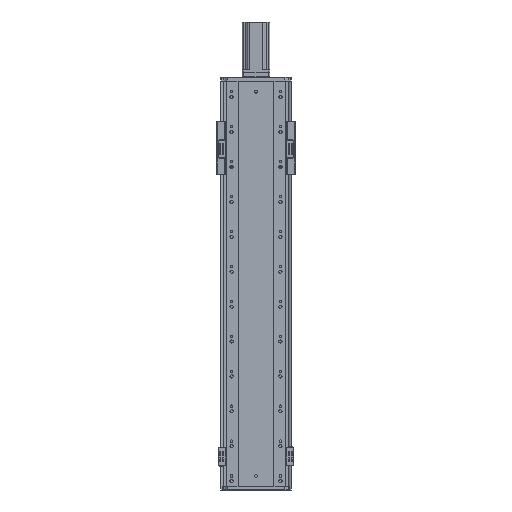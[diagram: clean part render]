
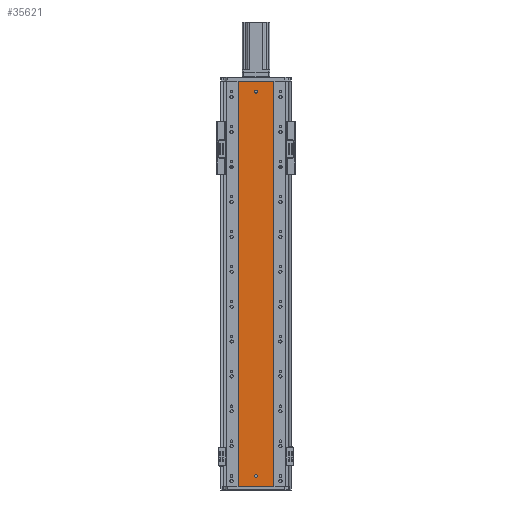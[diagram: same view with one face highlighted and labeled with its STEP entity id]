
A CAD part, front view. The second image highlights one B-rep face of the part: STEP entity #35621.
In plain terms, the highlighted planar face has unit normal (0, -1, 0).
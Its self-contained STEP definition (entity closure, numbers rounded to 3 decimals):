
#1361 = CARTESIAN_POINT ( 'NONE',  ( 136.47, 79.476, 1134. ) ) ;
#1381 = CARTESIAN_POINT ( 'NONE',  ( 136.47, 79.476, 1126. ) ) ;
#1425 = CARTESIAN_POINT ( 'NONE',  ( 136.47, 79.476, 26. ) ) ;
#1451 = CARTESIAN_POINT ( 'NONE',  ( 136.47, 79.476, 34. ) ) ;
#2639 = EDGE_CURVE ( 'NONE', #9634, #9628, #44948, .T. ) ;
#2643 = EDGE_CURVE ( 'NONE', #4482, #4453, #44992, .T. ) ;
#2644 = EDGE_CURVE ( 'NONE', #4390, #4393, #45001, .T. ) ;
#2645 = EDGE_CURVE ( 'NONE', #9629, #9628, #7686, .T. ) ;
#2651 = EDGE_CURVE ( 'NONE', #9631, #9629, #44970, .T. ) ;
#2664 = EDGE_CURVE ( 'NONE', #9631, #9634, #7791, .T. ) ;
#4390 = VERTEX_POINT ( 'NONE', #1381 ) ;
#4393 = VERTEX_POINT ( 'NONE', #1361 ) ;
#4453 = VERTEX_POINT ( 'NONE', #1451 ) ;
#4482 = VERTEX_POINT ( 'NONE', #1425 ) ;
#5324 = CARTESIAN_POINT ( 'NONE',  ( 0., 79.476, 1160. ) ) ;
#5325 = DIRECTION ( 'NONE',  ( 1., 0., 0. ) ) ;
#5327 = CARTESIAN_POINT ( 'NONE',  ( 185.97, 79.476, 1160. ) ) ;
#5329 = CARTESIAN_POINT ( 'NONE',  ( 136.47, 79.476, 1130. ) ) ;
#5330 = DIRECTION ( 'NONE',  ( 0., 0., -1. ) ) ;
#5332 = CARTESIAN_POINT ( 'NONE',  ( 185.97, 79.476, 773.333 ) ) ;
#5334 = CARTESIAN_POINT ( 'NONE',  ( 136.47, 79.476, 30. ) ) ;
#5345 = CARTESIAN_POINT ( 'NONE',  ( 185.97, 79.476, 0. ) ) ;
#5348 = DIRECTION ( 'NONE',  ( 1., 0., 0. ) ) ;
#5353 = CARTESIAN_POINT ( 'NONE',  ( 185.97, 79.476, 386.667 ) ) ;
#5354 = DIRECTION ( 'NONE',  ( 0., -1., 0. ) ) ;
#5355 = CARTESIAN_POINT ( 'NONE',  ( 0., 79.476, 0. ) ) ;
#5356 = DIRECTION ( 'NONE',  ( 0., 0., -1. ) ) ;
#5357 = DIRECTION ( 'NONE',  ( 0., -1., 0. ) ) ;
#5365 = CARTESIAN_POINT ( 'NONE',  ( 86.97, 79.476, 773.333 ) ) ;
#5370 = CARTESIAN_POINT ( 'NONE',  ( 86.97, 79.476, 1160. ) ) ;
#5378 = CARTESIAN_POINT ( 'NONE',  ( 86.97, 79.476, 386.667 ) ) ;
#5379 = CARTESIAN_POINT ( 'NONE',  ( 86.97, 79.476, 0. ) ) ;
#6641 = AXIS2_PLACEMENT_3D ( 'NONE', #5334, #5354, #5356 ) ;
#6654 = AXIS2_PLACEMENT_3D ( 'NONE', #5329, #5357, #5330 ) ;
#7686 = B_SPLINE_CURVE_WITH_KNOTS ( 'NONE', 3,
 ( #5327, #5332, #5353, #5345 ),
 .UNSPECIFIED., .F., .F.,
 ( 4, 4 ),
 ( 0., 1. ),
 .UNSPECIFIED. ) ;
#7791 = B_SPLINE_CURVE_WITH_KNOTS ( 'NONE', 3,
 ( #5370, #5365, #5378, #5379 ),
 .UNSPECIFIED., .F., .F.,
 ( 4, 4 ),
 ( 0., 1. ),
 .UNSPECIFIED. ) ;
#8783 = FACE_OUTER_BOUND ( 'NONE', #20250, .T. ) ;
#8785 = FACE_BOUND ( 'NONE', #20203, .T. ) ;
#8801 = FACE_BOUND ( 'NONE', #20234, .T. ) ;
#9628 = VERTEX_POINT ( 'NONE', #36003 ) ;
#9629 = VERTEX_POINT ( 'NONE', #36006 ) ;
#9631 = VERTEX_POINT ( 'NONE', #36004 ) ;
#9634 = VERTEX_POINT ( 'NONE', #36040 ) ;
#20203 = EDGE_LOOP ( 'NONE', ( #35386, #35299 ) ) ;
#20234 = EDGE_LOOP ( 'NONE', ( #35460, #35374 ) ) ;
#20250 = EDGE_LOOP ( 'NONE', ( #35319, #35362, #35345, #35366 ) ) ;
#33930 = CIRCLE ( 'NONE', #40699, 4. ) ;
#34004 = CIRCLE ( 'NONE', #40668, 4. ) ;
#35299 = ORIENTED_EDGE ( 'NONE', *, *, #42678, .F. ) ;
#35319 = ORIENTED_EDGE ( 'NONE', *, *, #2639, .T. ) ;
#35345 = ORIENTED_EDGE ( 'NONE', *, *, #2651, .F. ) ;
#35362 = ORIENTED_EDGE ( 'NONE', *, *, #2645, .F. ) ;
#35366 = ORIENTED_EDGE ( 'NONE', *, *, #2664, .T. ) ;
#35374 = ORIENTED_EDGE ( 'NONE', *, *, #42591, .F. ) ;
#35386 = ORIENTED_EDGE ( 'NONE', *, *, #2643, .F. ) ;
#35460 = ORIENTED_EDGE ( 'NONE', *, *, #2644, .F. ) ;
#35621 = ADVANCED_FACE ( 'NONE', ( #8801, #8785, #8783 ), #41754, .F. ) ;
#36003 = CARTESIAN_POINT ( 'NONE',  ( 185.97, 79.476, 0. ) ) ;
#36004 = CARTESIAN_POINT ( 'NONE',  ( 86.97, 79.476, 1160. ) ) ;
#36006 = CARTESIAN_POINT ( 'NONE',  ( 185.97, 79.476, 1160. ) ) ;
#36040 = CARTESIAN_POINT ( 'NONE',  ( 86.97, 79.476, 0. ) ) ;
#39295 = DIRECTION ( 'NONE',  ( 0., -1., 0. ) ) ;
#39302 = DIRECTION ( 'NONE',  ( 0., 0., -1. ) ) ;
#39355 = CARTESIAN_POINT ( 'NONE',  ( 136.47, 79.476, 1130. ) ) ;
#39893 = CARTESIAN_POINT ( 'NONE',  ( 136.47, 79.476, 30. ) ) ;
#39937 = DIRECTION ( 'NONE',  ( 0., -1., 0. ) ) ;
#39950 = DIRECTION ( 'NONE',  ( 0., 0., -1. ) ) ;
#40410 = AXIS2_PLACEMENT_3D ( 'NONE', #41776, #41773, #41767 ) ;
#40668 = AXIS2_PLACEMENT_3D ( 'NONE', #39893, #39937, #39950 ) ;
#40699 = AXIS2_PLACEMENT_3D ( 'NONE', #39355, #39295, #39302 ) ;
#41754 = PLANE ( 'NONE',  #40410 ) ;
#41767 = DIRECTION ( 'NONE',  ( 0., 0., 1. ) ) ;
#41773 = DIRECTION ( 'NONE',  ( 0., 1., 0. ) ) ;
#41776 = CARTESIAN_POINT ( 'NONE',  ( 0., 79.476, 1160. ) ) ;
#42591 = EDGE_CURVE ( 'NONE', #4393, #4390, #33930, .T. ) ;
#42678 = EDGE_CURVE ( 'NONE', #4453, #4482, #34004, .T. ) ;
#44948 = LINE ( 'NONE', #5355, #44969 ) ;
#44969 = VECTOR ( 'NONE', #5348, 1000. ) ;
#44970 = LINE ( 'NONE', #5324, #45004 ) ;
#44992 = CIRCLE ( 'NONE', #6641, 4. ) ;
#45001 = CIRCLE ( 'NONE', #6654, 4. ) ;
#45004 = VECTOR ( 'NONE', #5325, 1000. ) ;
